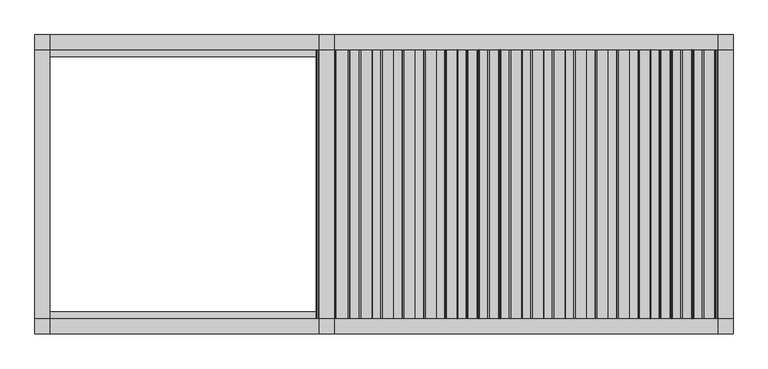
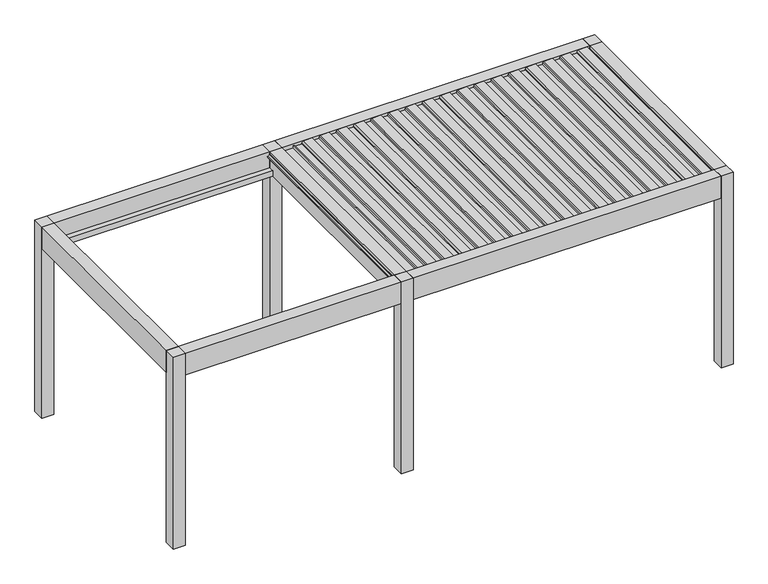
"""IFC4 building model written with IfcOpenShell, lengths in millimetres: proxy geometry, Renson_Amani_Patio_Cover : Renson_Amani_Patio_Cover."""

from ifc_helpers import new_model, si_unit, point, frame, frame_2d, origin, origin_with_axes, place, context, project, spatial, polyline, circle_curve, trimmed, segment, composite_curve, outline, extrude, source, transform, mapped, element, save


def generic_models_f342dfb5(model_context):
    return source(origin(), model_context, "Body", "SweptSolid", [
        extrude(outline(composite_curve([segment(polyline([(2483.35, 5073.7338351), (2511.01198, 5076.1539448), (2512.3970364, 5104.9891952), (2531.8911096, 5101.5518641), (2526.6075693, 4991.5547493)]), True, "CONTINUOUS"), segment(trimmed(circle_curve(frame_2d((2511.6248435, 4992.2744212)), 15.0), [point((2526.6075693, 4991.5547493))], [point((2514.2295662, 4977.5023049))], False, "CARTESIAN"), True, "CONTINUOUS"), segment(polyline([(2514.2295662, 4977.5023049), (2495.0, 4974.1116136), (2495.0, 4886.3758376), (2512.0788237, 4883.3643801), (2511.3450182, 4868.0874097), (2483.35, 4865.6381629), (2483.35, 5073.7338351)]), True, "CONTINUOUS")], self_intersect=False)), frame((0.0, -1350.0, 0.0), z_axis=(0.0, 1.0, 0.0), x_axis=(0.0, 0.0, 1.0)), (0.0, 0.0, 1.0), 2700.0),
        extrude(outline(composite_curve([segment(polyline([(2483.35, 4858.7230303), (2511.01198, 4861.14314), (2512.3970364, 4889.9783904), (2531.8911096, 4886.5410594), (2526.6075693, 4776.5439445)]), True, "CONTINUOUS"), segment(trimmed(circle_curve(frame_2d((2511.6248435, 4777.2636164)), 15.0), [point((2526.6075693, 4776.5439445))], [point((2514.2295662, 4762.4915001))], False, "CARTESIAN"), True, "CONTINUOUS"), segment(polyline([(2514.2295662, 4762.4915001), (2495.0, 4759.1008088), (2495.0, 4671.3650328), (2512.0788237, 4668.3535754), (2511.3450182, 4653.0766049), (2483.35, 4650.6273582), (2483.35, 4858.7230303)]), True, "CONTINUOUS")], self_intersect=False)), frame((0.0, -1350.0, 0.0), z_axis=(0.0, 1.0, 0.0), x_axis=(0.0, 0.0, 1.0)), (0.0, 0.0, 1.0), 2700.0),
        extrude(outline(composite_curve([segment(polyline([(2483.35, 4643.7122255), (2511.01198, 4646.1323352), (2512.3970364, 4674.9675857), (2531.8911096, 4671.5302546), (2526.6075693, 4561.5331397)]), True, "CONTINUOUS"), segment(trimmed(circle_curve(frame_2d((2511.6248435, 4562.2528117)), 15.0), [point((2526.6075693, 4561.5331397))], [point((2514.2295662, 4547.4806954))], False, "CARTESIAN"), True, "CONTINUOUS"), segment(polyline([(2514.2295662, 4547.4806954), (2495.0, 4544.090004), (2495.0, 4456.354228), (2512.0788237, 4453.3427706), (2511.3450182, 4438.0658001), (2483.35, 4435.6165534), (2483.35, 4643.7122255)]), True, "CONTINUOUS")], self_intersect=False)), frame((0.0, -1350.0, 0.0), z_axis=(0.0, 1.0, 0.0), x_axis=(0.0, 0.0, 1.0)), (0.0, 0.0, 1.0), 2700.0),
        extrude(outline(composite_curve([segment(polyline([(2483.35, 4428.7014208), (2511.01198, 4431.1215304), (2512.3970364, 4459.9567809), (2531.8911096, 4456.5194498), (2526.6075693, 4346.5223349)]), True, "CONTINUOUS"), segment(trimmed(circle_curve(frame_2d((2511.6248435, 4347.2420069)), 15.0), [point((2526.6075693, 4346.5223349))], [point((2514.2295662, 4332.4698906))], False, "CARTESIAN"), True, "CONTINUOUS"), segment(polyline([(2514.2295662, 4332.4698906), (2495.0, 4329.0791992), (2495.0, 4241.3434232), (2512.0788237, 4238.3319658), (2511.3450182, 4223.0549953), (2483.35, 4220.6057486), (2483.35, 4428.7014208)]), True, "CONTINUOUS")], self_intersect=False)), frame((0.0, -1350.0, 0.0), z_axis=(0.0, 1.0, 0.0), x_axis=(0.0, 0.0, 1.0)), (0.0, 0.0, 1.0), 2700.0),
        extrude(outline(composite_curve([segment(polyline([(2483.35, 4213.690616), (2511.01198, 4216.1107256), (2512.3970364, 4244.9459761), (2531.8911096, 4241.508645), (2526.6075693, 4131.5115302)]), True, "CONTINUOUS"), segment(trimmed(circle_curve(frame_2d((2511.6248435, 4132.2312021)), 15.0), [point((2526.6075693, 4131.5115302))], [point((2514.2295662, 4117.4590858))], False, "CARTESIAN"), True, "CONTINUOUS"), segment(polyline([(2514.2295662, 4117.4590858), (2495.0, 4114.0683945), (2495.0, 4026.3326184), (2512.0788237, 4023.321161), (2511.3450182, 4008.0441905), (2483.35, 4005.5949438), (2483.35, 4213.690616)]), True, "CONTINUOUS")], self_intersect=False)), frame((0.0, -1350.0, 0.0), z_axis=(0.0, 1.0, 0.0), x_axis=(0.0, 0.0, 1.0)), (0.0, 0.0, 1.0), 2700.0),
        extrude(outline(composite_curve([segment(polyline([(2483.35, 3998.6798112), (2511.01198, 4001.0999209), (2512.3970364, 4029.9351713), (2531.8911096, 4026.4978402), (2526.6075693, 3916.5007254)]), True, "CONTINUOUS"), segment(trimmed(circle_curve(frame_2d((2511.6248435, 3917.2203973)), 15.0), [point((2526.6075693, 3916.5007254))], [point((2514.2295662, 3902.448281))], False, "CARTESIAN"), True, "CONTINUOUS"), segment(polyline([(2514.2295662, 3902.448281), (2495.0, 3899.0575897), (2495.0, 3811.3218136), (2512.0788237, 3808.3103562), (2511.3450182, 3793.0333858), (2483.35, 3790.584139), (2483.35, 3998.6798112)]), True, "CONTINUOUS")], self_intersect=False)), frame((0.0, -1350.0, 0.0), z_axis=(0.0, 1.0, 0.0), x_axis=(0.0, 0.0, 1.0)), (0.0, 0.0, 1.0), 2700.0),
        extrude(outline(composite_curve([segment(polyline([(2483.35, 3783.6690064), (2511.01198, 3786.0891161), (2512.3970364, 3814.9243665), (2531.8911096, 3811.4870355), (2526.6075693, 3701.4899206)]), True, "CONTINUOUS"), segment(trimmed(circle_curve(frame_2d((2511.6248435, 3702.2095925)), 15.0), [point((2526.6075693, 3701.4899206))], [point((2514.2295662, 3687.4374762))], False, "CARTESIAN"), True, "CONTINUOUS"), segment(polyline([(2514.2295662, 3687.4374762), (2495.0, 3684.0467849), (2495.0, 3596.3110089), (2512.0788237, 3593.2995515), (2511.3450182, 3578.022581), (2483.35, 3575.5733343), (2483.35, 3783.6690064)]), True, "CONTINUOUS")], self_intersect=False)), frame((0.0, -1350.0, 0.0), z_axis=(0.0, 1.0, 0.0), x_axis=(0.0, 0.0, 1.0)), (0.0, 0.0, 1.0), 2700.0),
        extrude(outline(composite_curve([segment(polyline([(2483.35, 3568.6582016), (2511.01198, 3571.0783113), (2512.3970364, 3599.9135617), (2531.8911096, 3596.4762307), (2526.6075693, 3486.4791158)]), True, "CONTINUOUS"), segment(trimmed(circle_curve(frame_2d((2511.6248435, 3487.1987878)), 15.0), [point((2526.6075693, 3486.4791158))], [point((2514.2295662, 3472.4266715))], False, "CARTESIAN"), True, "CONTINUOUS"), segment(polyline([(2514.2295662, 3472.4266715), (2495.0, 3469.0359801), (2495.0, 3381.3002041), (2512.0788237, 3378.2887467), (2511.3450182, 3363.0117762), (2483.35, 3360.5625295), (2483.35, 3568.6582016)]), True, "CONTINUOUS")], self_intersect=False)), frame((0.0, -1350.0, 0.0), z_axis=(0.0, 1.0, 0.0), x_axis=(0.0, 0.0, 1.0)), (0.0, 0.0, 1.0), 2700.0),
        extrude(outline(composite_curve([segment(polyline([(2483.35, 3353.6473968), (2511.01198, 3356.0675065), (2512.3970364, 3384.902757), (2531.8911096, 3381.4654259), (2526.6075693, 3271.468311)]), True, "CONTINUOUS"), segment(trimmed(circle_curve(frame_2d((2511.6248435, 3272.187983)), 15.0), [point((2526.6075693, 3271.468311))], [point((2514.2295662, 3257.4158667))], False, "CARTESIAN"), True, "CONTINUOUS"), segment(polyline([(2514.2295662, 3257.4158667), (2495.0, 3254.0251753), (2495.0, 3166.2893993), (2512.0788237, 3163.2779419), (2511.3450182, 3148.0009714), (2483.35, 3145.5517247), (2483.35, 3353.6473968)]), True, "CONTINUOUS")], self_intersect=False)), frame((0.0, -1350.0, 0.0), z_axis=(0.0, 1.0, 0.0), x_axis=(0.0, 0.0, 1.0)), (0.0, 0.0, 1.0), 2700.0),
        extrude(outline(composite_curve([segment(polyline([(2483.35, 3138.6365921), (2511.01198, 3141.0567017), (2512.3970364, 3169.8919522), (2531.8911096, 3166.4546211), (2526.6075693, 3056.4575063)]), True, "CONTINUOUS"), segment(trimmed(circle_curve(frame_2d((2511.6248435, 3057.1771782)), 15.0), [point((2526.6075693, 3056.4575063))], [point((2514.2295662, 3042.4050619))], False, "CARTESIAN"), True, "CONTINUOUS"), segment(polyline([(2514.2295662, 3042.4050619), (2495.0, 3039.0143706), (2495.0, 2951.2785945), (2512.0788237, 2948.2671371), (2511.3450182, 2932.9901666), (2483.35, 2930.5409199), (2483.35, 3138.6365921)]), True, "CONTINUOUS")], self_intersect=False)), frame((0.0, -1350.0, 0.0), z_axis=(0.0, 1.0, 0.0), x_axis=(0.0, 0.0, 1.0)), (0.0, 0.0, 1.0), 2700.0),
        extrude(outline(composite_curve([segment(polyline([(2483.35, 2923.6257873), (2511.01198, 2926.0458969), (2512.3970364, 2954.8811474), (2531.8911096, 2951.4438163), (2526.6075693, 2841.4467015)]), True, "CONTINUOUS"), segment(trimmed(circle_curve(frame_2d((2511.6248435, 2842.1663734)), 15.0), [point((2526.6075693, 2841.4467015))], [point((2514.2295662, 2827.3942571))], False, "CARTESIAN"), True, "CONTINUOUS"), segment(polyline([(2514.2295662, 2827.3942571), (2495.0, 2824.0035658), (2495.0, 2736.2677897), (2512.0788237, 2733.2563323), (2511.3450182, 2717.9793619), (2483.35, 2715.5301151), (2483.35, 2923.6257873)]), True, "CONTINUOUS")], self_intersect=False)), frame((0.0, -1350.0, 0.0), z_axis=(0.0, 1.0, 0.0), x_axis=(0.0, 0.0, 1.0)), (0.0, 0.0, 1.0), 2700.0),
        extrude(outline(composite_curve([segment(polyline([(2483.35, 2708.6149825), (2511.01198, 2711.0350922), (2512.3970364, 2739.8703426), (2531.8911096, 2736.4330115), (2526.6075693, 2626.4358967)]), True, "CONTINUOUS"), segment(trimmed(circle_curve(frame_2d((2511.6248435, 2627.1555686)), 15.0), [point((2526.6075693, 2626.4358967))], [point((2514.2295662, 2612.3834523))], False, "CARTESIAN"), True, "CONTINUOUS"), segment(polyline([(2514.2295662, 2612.3834523), (2495.0, 2608.992761), (2495.0, 2521.256985), (2512.0788237, 2518.2455275), (2511.3450182, 2502.9685571), (2483.35, 2500.5193103), (2483.35, 2708.6149825)]), True, "CONTINUOUS")], self_intersect=False)), frame((0.0, -1350.0, 0.0), z_axis=(0.0, 1.0, 0.0), x_axis=(0.0, 0.0, 1.0)), (0.0, 0.0, 1.0), 2700.0),
        extrude(outline(composite_curve([segment(polyline([(2483.35, 2493.6041777), (2511.01198, 2496.0242874), (2512.3970364, 2524.8595378), (2531.8911096, 2521.4222068), (2526.6075693, 2411.4250919)]), True, "CONTINUOUS"), segment(trimmed(circle_curve(frame_2d((2511.6248435, 2412.1447638)), 15.0), [point((2526.6075693, 2411.4250919))], [point((2514.2295662, 2397.3726475))], False, "CARTESIAN"), True, "CONTINUOUS"), segment(polyline([(2514.2295662, 2397.3726475), (2495.0, 2393.9819562), (2495.0, 2306.2461802), (2512.0788237, 2303.2347228), (2511.3450182, 2287.9577523), (2483.35, 2285.5085056), (2483.35, 2493.6041777)]), True, "CONTINUOUS")], self_intersect=False)), frame((0.0, -1350.0, 0.0), z_axis=(0.0, 1.0, 0.0), x_axis=(0.0, 0.0, 1.0)), (0.0, 0.0, 1.0), 2700.0),
        extrude(outline(composite_curve([segment(polyline([(2483.35, 2278.5933729), (2511.01198, 2281.0134826), (2512.3970364, 2309.8487331), (2531.8911096, 2306.411402), (2526.6075693, 2196.4142871)]), True, "CONTINUOUS"), segment(trimmed(circle_curve(frame_2d((2511.6248435, 2197.1339591)), 15.0), [point((2526.6075693, 2196.4142871))], [point((2514.2295662, 2182.3618428))], False, "CARTESIAN"), True, "CONTINUOUS"), segment(polyline([(2514.2295662, 2182.3618428), (2495.0, 2178.9711514), (2495.0, 2091.2353754), (2512.0788237, 2088.223918), (2511.3450182, 2072.9469475), (2483.35, 2070.4977008), (2483.35, 2278.5933729)]), True, "CONTINUOUS")], self_intersect=False)), frame((0.0, -1350.0, 0.0), z_axis=(0.0, 1.0, 0.0), x_axis=(0.0, 0.0, 1.0)), (0.0, 0.0, 1.0), 2700.0),
        extrude(outline(composite_curve([segment(polyline([(2483.35, 2063.5825682), (2511.01198, 2066.0026778), (2512.3970364, 2094.8379283), (2531.8911096, 2091.4005972), (2526.6075693, 1981.4034824)]), True, "CONTINUOUS"), segment(trimmed(circle_curve(frame_2d((2511.6248435, 1982.1231543)), 15.0), [point((2526.6075693, 1981.4034824))], [point((2514.2295662, 1967.351038))], False, "CARTESIAN"), True, "CONTINUOUS"), segment(polyline([(2514.2295662, 1967.351038), (2495.0, 1963.9603466), (2495.0, 1876.2245706), (2512.0788237, 1873.2131132), (2511.3450182, 1857.9361427), (2483.35, 1855.486896), (2483.35, 2063.5825682)]), True, "CONTINUOUS")], self_intersect=False)), frame((0.0, -1350.0, 0.0), z_axis=(0.0, 1.0, 0.0), x_axis=(0.0, 0.0, 1.0)), (0.0, 0.0, 1.0), 2700.0),
        extrude(outline(composite_curve([segment(polyline([(2483.35, 5288.7446399), (2511.01198, 5291.1647495), (2512.3970364, 5320.0), (2531.8911096, 5316.5626689), (2526.6075693, 5206.5655541)]), True, "CONTINUOUS"), segment(trimmed(circle_curve(frame_2d((2511.6248435, 5207.285226)), 15.0), [point((2526.6075693, 5206.5655541))], [point((2514.2295662, 5192.5131097))], False, "CARTESIAN"), True, "CONTINUOUS"), segment(polyline([(2514.2295662, 5192.5131097), (2495.0, 5189.1224184), (2495.0, 5101.3866423), (2512.0788237, 5098.3751849), (2511.3450182, 5083.0982144), (2483.35, 5080.6489677), (2483.35, 5288.7446399)]), True, "CONTINUOUS")], self_intersect=False)), frame((0.0, -1350.0, 0.0), z_axis=(0.0, 1.0, 0.0), x_axis=(0.0, 0.0, 1.0)), (0.0, 0.0, 1.0), 2700.0),
        extrude(outline(composite_curve([segment(polyline([(2483.35, 1848.5717634), (2511.01198, 1850.991873), (2512.3970364, 1879.8271235), (2531.8911096, 1876.3897924), (2526.6075693, 1766.3926776)]), True, "CONTINUOUS"), segment(trimmed(circle_curve(frame_2d((2511.6248435, 1767.1123495)), 15.0), [point((2526.6075693, 1766.3926776))], [point((2514.2295662, 1752.3402332))], False, "CARTESIAN"), True, "CONTINUOUS"), segment(polyline([(2514.2295662, 1752.3402332), (2495.0, 1748.9495419), (2495.0, 1661.2137658), (2512.0788237, 1658.2023084), (2511.3450182, 1642.9253379), (2483.35, 1640.4760912), (2483.35, 1848.5717634)]), True, "CONTINUOUS")], self_intersect=False)), frame((0.0, -1350.0, 0.0), z_axis=(0.0, 1.0, 0.0), x_axis=(0.0, 0.0, 1.0)), (0.0, 0.0, 1.0), 2700.0),
        extrude(outline(polyline([(5500.0, 1500.0), (5500.0, 1350.0), (5350.0, 1350.0), (5350.0, 1500.0), (5500.0, 1500.0)])), origin_with_axes(), (0.0, 0.0, 1.0), 2535.0),
        extrude(outline(polyline([(5500.0, -1350.0), (5500.0, -1500.0), (5350.0, -1500.0), (5350.0, -1350.0), (5500.0, -1350.0)])), origin_with_axes(), (0.0, 0.0, 1.0), 2535.0),
        extrude(outline(polyline([(1500.0, -1350.0), (1500.0, -1500.0), (1350.0, -1500.0), (1350.0, -1350.0), (1500.0, -1350.0)])), origin_with_axes(), (0.0, 0.0, 1.0), 2535.0),
        extrude(outline(polyline([(1500.0, 1500.0), (1500.0, 1350.0), (1350.0, 1350.0), (1350.0, 1500.0), (1500.0, 1500.0)])), origin_with_axes(), (0.0, 0.0, 1.0), 2535.0),
        extrude(outline(polyline([(-1350.0, 1350.0), (-1500.0, 1350.0), (-1500.0, 1500.0), (-1350.0, 1500.0), (-1350.0, 1350.0)])), origin_with_axes(), (0.0, 0.0, 1.0), 2535.0),
        extrude(outline(polyline([(-1350.0, -1350.0), (-1350.0, -1500.0), (-1500.0, -1500.0), (-1500.0, -1350.0), (-1350.0, -1350.0)])), origin_with_axes(), (0.0, 0.0, 1.0), 2535.0),
        extrude(outline(polyline([(2466.6559373, 1500.0), (2466.6559373, 1635.0), (2480.6555802, 1638.7512887), (2480.6555802, 1520.4059055), (2496.400763, 1505.0), (2504.2449277, 1505.0), (2504.6823598, 1500.0), (2466.6559373, 1500.0)])), frame((0.0, -1350.0, 0.0), z_axis=(0.0, 1.0, 0.0), x_axis=(0.0, 0.0, 1.0)), (0.0, 0.0, 1.0), 2700.0),
        extrude(outline(polyline([(-1350.0, 2535.0), (-1350.0, 2322.0), (-1280.0000001, 2322.0), (-1280.0000001, 2250.0), (-1500.0, 2250.0), (-1500.0, 2535.0), (-1350.0, 2535.0)])), frame((1500.0, 0.0, 0.0), z_axis=(1.0, 0.0, 0.0), x_axis=(0.0, 1.0, 0.0)), (0.0, 0.0, 1.0), 3850.0),
        extrude(outline(polyline([(1500.0, 2250.0), (1280.0000001, 2250.0), (1280.0000001, 2322.0), (1350.0, 2322.0), (1350.0, 2535.0), (1500.0, 2535.0), (1500.0, 2250.0)])), frame((1500.0, 0.0, 0.0), z_axis=(1.0, 0.0, 0.0), x_axis=(0.0, 1.0, 0.0)), (0.0, 0.0, 1.0), 3850.0),
        extrude(outline(polyline([(2535.0, 5500.0), (2535.0, 5350.0), (2504.6823598, 5350.0), (2504.2449277, 5345.0), (2496.400763, 5345.0), (2480.6555802, 5329.2544156), (2480.6555802, 5319.9090324), (2466.6559373, 5323.6603211), (2466.6559373, 5350.0), (2250.0, 5350.0), (2250.0, 5500.0), (2535.0, 5500.0)])), frame((0.0, -1350.0, 0.0), z_axis=(0.0, 1.0, 0.0), x_axis=(0.0, 0.0, 1.0)), (0.0, 0.0, 1.0), 2700.0),
        extrude(outline(polyline([(-1350.0, -1350.0), (-1500.0, -1350.0), (-1500.0, 1350.0), (-1350.0, 1350.0), (-1350.0, -1350.0)])), frame((0.0, 0.0, 2250.0), z_axis=(0.0, 0.0, 1.0), x_axis=(1.0, 0.0, 0.0)), (0.0, 0.0, 1.0), 285.0),
        extrude(outline(polyline([(2535.0, 1500.0), (2535.0, 1350.0), (2504.6904658, 1350.0), (2504.2449277, 1345.0), (2496.400763, 1345.0), (2480.6555802, 1329.2544156), (2480.6555802, 1319.9090324), (2466.6559373, 1323.6603211), (2466.6559373, 1350.0), (2250.0, 1350.0), (2250.0, 1500.0), (2535.0, 1500.0)])), frame((0.0, -1350.0, 0.0), z_axis=(0.0, 1.0, 0.0), x_axis=(0.0, 0.0, 1.0)), (0.0, 0.0, 1.0), 2700.0),
        extrude(outline(polyline([(-1350.0, 2535.0), (-1350.0, 2322.0), (-1280.0000001, 2322.0), (-1280.0000001, 2250.0), (-1500.0, 2250.0), (-1500.0, 2535.0), (-1350.0, 2535.0)])), frame((-1350.0, 0.0, 0.0), z_axis=(1.0, 0.0, 0.0), x_axis=(0.0, 1.0, 0.0)), (0.0, 0.0, 1.0), 2700.0),
        extrude(outline(polyline([(1500.0, 2250.0), (1280.0000001, 2250.0), (1280.0000001, 2322.0), (1350.0, 2322.0), (1350.0, 2535.0), (1500.0, 2535.0), (1500.0, 2250.0)])), frame((-1350.0, 0.0, 0.0), z_axis=(1.0, 0.0, 0.0), x_axis=(0.0, 1.0, 0.0)), (0.0, 0.0, 1.0), 2700.0),
    ])


if __name__ == "__main__":
    model = new_model("IFC4")
    model_context = context("Model", 3, world=origin())
    ifc_project = project(units=[si_unit("LENGTHUNIT", "METRE", prefix="MILLI")], contexts=[model_context])
    site = spatial("IfcSite", under=ifc_project)
    building = spatial("IfcBuilding", under=site)
    placement = place(None, origin())
    generic_models_shape = generic_models_f342dfb5(model_context)
    element("IfcBuildingElementProxy", 1, Name="Renson_Amani_Patio_Cover : Renson_Amani_Patio_Cover", ObjectType="Renson_Amani_Patio_Cover : Renson_Amani_Patio_Cover", at=placement, inside=building, context=model_context, shape_type="MappedRepresentation", body=[
        mapped(generic_models_shape, transform((0.0, 0.0, 0.0), x_axis=(1.0, 0.0, 0.0), y_axis=(0.0, 1.0, 0.0), z_axis=(0.0, 0.0, 1.0))),
    ])
    save(model, "model.ifc")
